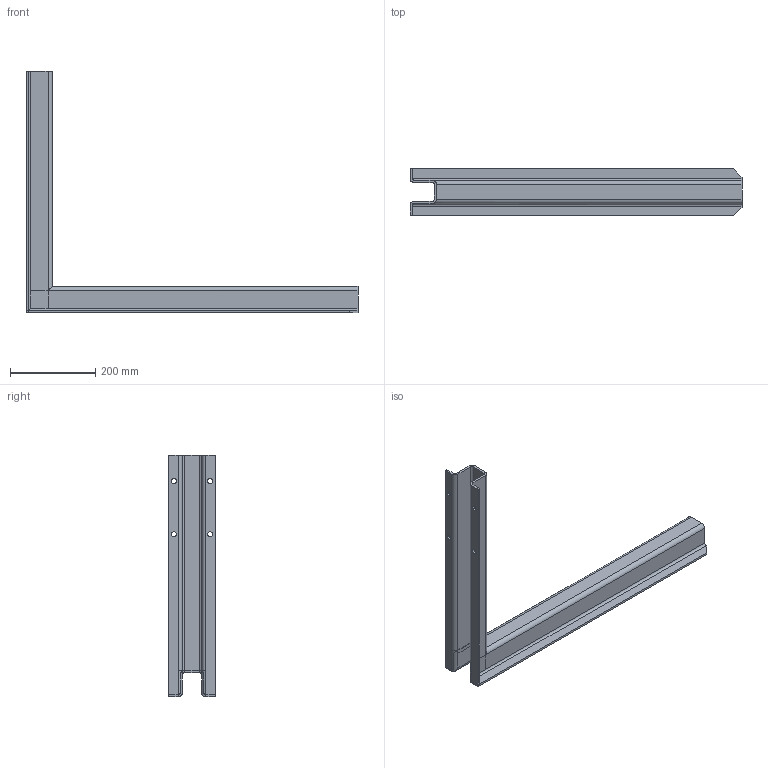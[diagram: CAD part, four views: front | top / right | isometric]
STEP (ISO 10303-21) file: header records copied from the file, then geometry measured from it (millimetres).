
FILE_DESCRIPTION(('FreeCAD Model'),'2;1');
FILE_NAME('/home/tiedemate/Pictures/Tankkonsole 12M18.step', '2020-02-15T16:28:27',('Author'),(''), 'Open CASCADE STEP processor 7.3','FreeCAD','Unknown');
FILE_SCHEMA(('AUTOMOTIVE_DESIGN { 1 0 10303 214 1 1 1 1 }'));
Length unit declared in the file: millimetre
Products named in the file (2): Tankkonsole_orig_M12; Body_Tankkonsole_orig_M12
Assembly tree (1 placements, depth 2):
  Tankkonsole_orig_M12
    Body_Tankkonsole_orig_M12
Bounding box: 780 x 110 x 568 mm (x, y, z)
Volume: 1356114.7 mm3; surface area: 558623.9 mm2
Topology: 1 solids, 1 shells, 87 faces, 207 edges, 122 vertices
Faces by surface type: plane 49, cylinder 38
Full cylindrical faces by diameter (mm): 12 x4
Entity records: 7606 total; most frequent: CARTESIAN_POINT 3435, DIRECTION 761, LINE 495, VECTOR 495, ORIENTED_EDGE 414, PCURVE 414, DEFINITIONAL_REPRESENTATION 414, EDGE_CURVE 207
